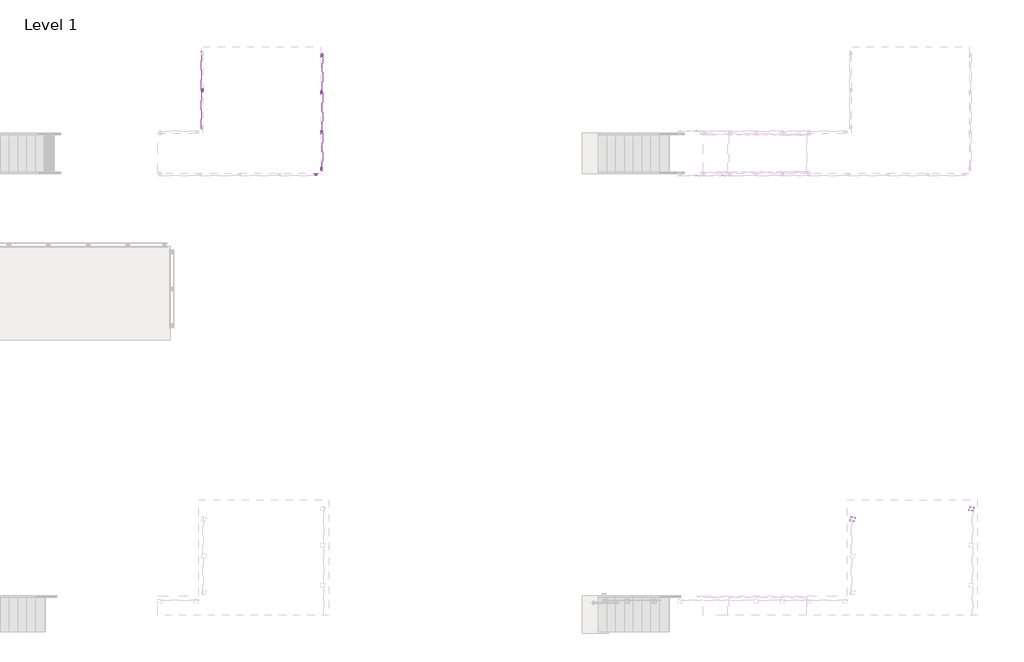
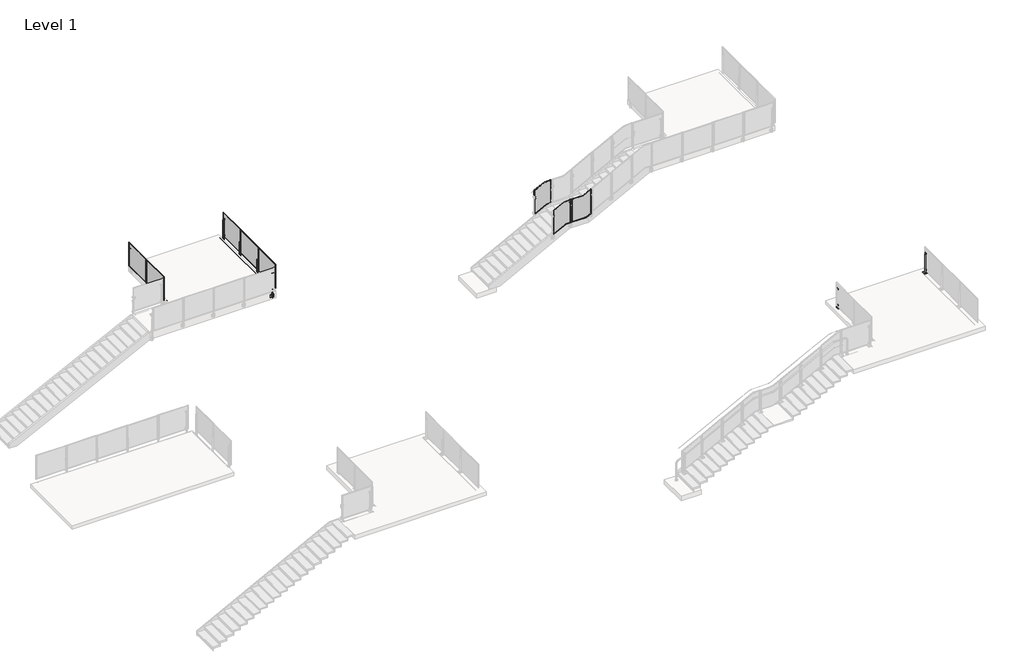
# One storey, part 16 of 28: 5 proxies, 5 railings.
"""IFC4 building model written with IfcOpenShell, lengths in millimetres."""

from ifc_helpers import new_model, si_unit, point, frame, frame_2d, origin, place, context, project, spatial, polyline, circle_curve, trimmed, segment, composite_curve, outline, extrude, transform, mapped, element, save
from components import building_element_proxy_f0dd287b, building_element_proxy_88367a16, building_element_proxy_d87515a7, building_element_proxy_bd17ef1f, standard_pp01_cf85937b, standard_pp01_83faf62d, standard_pp01_0638d6a2

model = new_model("IFC4")

# Units and contexts
model_context = context("Model", 3, world=origin())
ifc_project = project(units=[si_unit("LENGTHUNIT", "METRE", prefix="MILLI")], contexts=[model_context])

# Site, building, storey
site = spatial("IfcSite", under=ifc_project)
building = spatial("IfcBuilding", under=site)
storey = spatial("IfcBuildingStorey", under=building, Name="Level 1", Elevation=0.0)

# Proxies
placement = place(None, origin())
building_element_proxy_shape = building_element_proxy_f0dd287b(model_context)
element("IfcBuildingElementProxy", 1, Name="Baluster-End-Post-VIVA-STRUC-Top Mount : WELDED Fascia MOUNT STRUC_STRAIGHT", ObjectType="Baluster-End-Post-VIVA-STRUC-Top Mount : WELDED Fascia MOUNT STRUC_STRAIGHT", at=placement, inside=storey, context=model_context, shape_type="MappedRepresentation", body=[
    mapped(building_element_proxy_shape, transform((-27951.5100036, -3846.7140523, 3047.492), x_axis=(0.0, 1.0, 0.0), y_axis=(-1.0, 0.0, 0.0), z_axis=(0.0, 0.0, 1.0))),
])
building_element_proxy_2_shape = building_element_proxy_88367a16(model_context)
element("IfcBuildingElementProxy", 2, Name="Baluster-End-Post-VIVA-STRUC-Top Mount : ANCHORED TO CONCRETE_TOP MOUNT STRUC_STRAIGHT", ObjectType="Baluster-End-Post-VIVA-STRUC-Top Mount : ANCHORED TO CONCRETE_TOP MOUNT STRUC_STRAIGHT", at=placement, inside=storey, context=model_context, shape_type="MappedRepresentation", body=[
    mapped(building_element_proxy_2_shape, transform((-7177.6759339, -14527.8968047, 3047.492), x_axis=(0.0, 1.0, 0.0), y_axis=(-1.0, 0.0, 0.0), z_axis=(0.0, 0.0, 1.0))),
])
building_element_proxy_3_shape = building_element_proxy_d87515a7(model_context)
element("IfcBuildingElementProxy", 3, Name="Baluster-End-Post-VIVA-STRUC-Top Mount : ANCHORED TO CONCRETE_TOP MOUNT STRUC_STRAIGHT", ObjectType="Baluster-End-Post-VIVA-STRUC-Top Mount : ANCHORED TO CONCRETE_TOP MOUNT STRUC_STRAIGHT", at=placement, inside=storey, context=model_context, shape_type="MappedRepresentation", body=[
    mapped(building_element_proxy_3_shape, transform((-10784.7662678, -14857.5929387, 3047.492), x_axis=(0.0, -1.0, 0.0), y_axis=(1.0, 0.0, 0.0), z_axis=(0.0, 0.0, 1.0))),
])
building_element_proxy_4_shape = building_element_proxy_bd17ef1f(model_context)
element("IfcBuildingElementProxy", 4, Name="Baluster-End-Post-VIVA-STRUC-Top Mount : WELDED Fascia MOUNT STRUC_STRAIGHT", ObjectType="Baluster-End-Post-VIVA-STRUC-Top Mount : WELDED Fascia MOUNT STRUC_STRAIGHT", at=placement, inside=storey, context=model_context, shape_type="MappedRepresentation", body=[
    mapped(building_element_proxy_4_shape, transform((-27936.1434339, -3841.0034112, 3047.492), x_axis=(1.0, 0.0, 0.0), y_axis=(0.0, 1.0, 0.0), z_axis=(0.0, 0.0, 1.0))),
])
element("IfcBuildingElementProxy", 5, Name="Baluster-End-Post-VIVA-STRUC-Top Mount : WELDED Fascia MOUNT STRUC_STRAIGHT", ObjectType="Baluster-End-Post-VIVA-STRUC-Top Mount : WELDED Fascia MOUNT STRUC_STRAIGHT", at=placement, inside=storey, context=model_context, shape_type="MappedRepresentation", body=[
    mapped(building_element_proxy_4_shape, transform((-27951.5100036, -36.7140523, 3047.492), x_axis=(0.0, 1.0, 0.0), y_axis=(-1.0, 0.0, 0.0), z_axis=(0.0, 0.0, 1.0))),
])

# Railings
element("IfcRailing", 6, ObjectType="Metal-Panel-VIVA-STRUC-Fascia-Straight", at=placement, inside=storey, context=model_context, shape_type="SweptSolid", body=[
    extrude(outline(composite_curve([segment(trimmed(circle_curve(frame_2d((3047.746, -31563.4049728)), 0.254), [point((3047.746, -31563.1509728))], [point((3047.746, -31563.6589728))], False, "CARTESIAN"), True, "CONTINUOUS"), segment(trimmed(circle_curve(frame_2d((3047.746, -31563.4049728)), 0.254), [point((3047.746, -31563.6589728))], [point((3047.746, -31563.1509728))], False, "CARTESIAN"), True, "CONTINUOUS")], self_intersect=False)), frame((0.0, -2506.3726508, 0.0), z_axis=(0.0, 1.0, 0.0), x_axis=(0.0, 0.0, 1.0)), (0.0, 0.0, 1.0), 2540.0),
    extrude(outline(composite_curve([segment(trimmed(circle_curve(frame_2d((3047.746, -31563.4049728)), 0.254), [point((3047.746, -31563.1509728))], [point((3047.746, -31563.6589728))], False, "CARTESIAN"), True, "CONTINUOUS"), segment(trimmed(circle_curve(frame_2d((3047.746, -31563.4049728)), 0.254), [point((3047.746, -31563.6589728))], [point((3047.746, -31563.1509728))], False, "CARTESIAN"), True, "CONTINUOUS")], self_intersect=False)), frame((0.0, -2506.3726508, 0.0), z_axis=(0.0, 1.0, 0.0), x_axis=(0.0, 0.0, 1.0)), (0.0, 0.0, 1.0), 2540.0),
    extrude(outline(polyline([(-31693.0987728, -1195.5461939), (-31693.0987728, -7.1991078), (-31690.0987728, -7.1991078), (-31690.0987728, -1195.5461939), (-31693.0987728, -1195.5461939)])), frame((0.0, 0.0, 3124.1959569), z_axis=(0.0, 0.0, 1.0), x_axis=(1.0, 0.0, 0.0)), (0.0, 0.0, 1.0), 990.5826861),
    extrude(outline(polyline([(-1220.9461939, 3098.7959569), (-1220.9461939, 4140.1786431), (18.2008922, 4140.1786431), (18.2008922, 3098.7959569), (-1220.9461939, 3098.7959569)]), holes=[polyline([(-1195.5461939, 4114.7786431), (-1195.5461939, 3124.1959569), (-7.1991078, 3124.1959569), (-7.1991078, 4114.7786431), (-1195.5461939, 4114.7786431)])]), frame((-31699.6237728, 0.0, 0.0), z_axis=(1.0, 0.0, 0.0), x_axis=(0.0, 1.0, 0.0)), (0.0, 0.0, 1.0), 9.525),
    extrude(outline(polyline([(-31682.9881728, -1274.4733701), (-31690.1001728, -1274.4733701), (-31690.1001728, -1198.2719316), (-31682.9881728, -1198.2719316), (-31682.9881728, -1274.4733701)])), frame((0.0, 0.0, 3529.076), z_axis=(0.0, 0.0, 1.0), x_axis=(1.0, 0.0, 0.0)), (0.0, 0.0, 1.0), 50.8),
    extrude(outline(polyline([(-31682.9881728, -1274.4733701), (-31690.1001728, -1274.4733701), (-31690.1001728, -1198.2719316), (-31682.9881728, -1198.2719316), (-31682.9881728, -1274.4733701)])), frame((0.0, 0.0, 3071.876), z_axis=(0.0, 0.0, 1.0), x_axis=(1.0, 0.0, 0.0)), (0.0, 0.0, 1.0), 50.8),
    extrude(outline(polyline([(-31677.1461728, -1228.4372425), (-31677.1461728, -1220.4362425), (-31643.3641728, -1220.4362425), (-31643.3641728, -1172.8767209), (-31635.2361728, -1172.8767209), (-31635.2361728, -1228.4372425), (-31677.1461728, -1228.4372425)])), frame((0.0, 0.0, 2832.1), z_axis=(0.0, 0.0, 1.0), x_axis=(1.0, 0.0, 0.0)), (0.0, 0.0, 1.0), 127.0),
    extrude(outline(polyline([(-31677.1461728, -1244.3122425), (-31635.2361728, -1244.3122425), (-31635.2361728, -1299.872764), (-31643.3641728, -1299.872764), (-31643.3641728, -1252.3132425), (-31677.1461728, -1252.3132425), (-31677.1461728, -1244.3122425)])), frame((0.0, 0.0, 2832.1), z_axis=(0.0, 0.0, 1.0), x_axis=(1.0, 0.0, 0.0)), (0.0, 0.0, 1.0), 127.0),
    extrude(outline(polyline([(-31638.5381728, -1244.3122425), (-31682.9881728, -1244.3122425), (-31682.9881728, -1228.4330592), (-31638.5381728, -1228.4330592), (-31638.5381728, -1244.3122425)])), frame((0.0, 0.0, 2832.1), z_axis=(0.0, 0.0, 1.0), x_axis=(1.0, 0.0, 0.0)), (0.0, 0.0, 1.0), 787.4),
    extrude(outline(polyline([(-31693.0987728, -2465.5461939), (-31693.0987728, -1277.1991078), (-31690.0987728, -1277.1991078), (-31690.0987728, -2465.5461939), (-31693.0987728, -2465.5461939)])), frame((0.0, 0.0, 3124.1959569), z_axis=(0.0, 0.0, 1.0), x_axis=(1.0, 0.0, 0.0)), (0.0, 0.0, 1.0), 990.5826861),
    extrude(outline(polyline([(-2490.9461939, 3098.7959569), (-2490.9461939, 4140.1786431), (-1251.7991078, 4140.1786431), (-1251.7991078, 3098.7959569), (-2490.9461939, 3098.7959569)]), holes=[polyline([(-2465.5461939, 4114.7786431), (-2465.5461939, 3124.1959569), (-1277.1991078, 3124.1959569), (-1277.1991078, 4114.7786431), (-2465.5461939, 4114.7786431)])]), frame((-31699.6237728, 0.0, 0.0), z_axis=(1.0, 0.0, 0.0), x_axis=(0.0, 1.0, 0.0)), (0.0, 0.0, 1.0), 9.525),
])
element("IfcRailing", 7, ObjectType="Metal-Panel-VIVA-STRUC-Fascia-Straight", at=placement, inside=storey, context=model_context, shape_type="SweptSolid", body=[
    extrude(outline(composite_curve([segment(trimmed(circle_curve(frame_2d((3047.746, -27951.5100036)), 0.254), [point((3047.746, -27951.2560036))], [point((3047.746, -27951.7640036))], False, "CARTESIAN"), True, "CONTINUOUS"), segment(trimmed(circle_curve(frame_2d((3047.746, -27951.5100036)), 0.254), [point((3047.746, -27951.7640036))], [point((3047.746, -27951.2560036))], False, "CARTESIAN"), True, "CONTINUOUS")], self_intersect=False)), frame((0.0, -3846.7140523, 0.0), z_axis=(0.0, 1.0, 0.0), x_axis=(0.0, 0.0, 1.0)), (0.0, 0.0, 1.0), 3810.0),
    extrude(outline(composite_curve([segment(trimmed(circle_curve(frame_2d((3047.746, -27951.5100036)), 0.254), [point((3047.746, -27951.2560036))], [point((3047.746, -27951.7640036))], False, "CARTESIAN"), True, "CONTINUOUS"), segment(trimmed(circle_curve(frame_2d((3047.746, -27951.5100036)), 0.254), [point((3047.746, -27951.7640036))], [point((3047.746, -27951.2560036))], False, "CARTESIAN"), True, "CONTINUOUS")], self_intersect=False)), frame((0.0, -3846.7140523, 0.0), z_axis=(0.0, 1.0, 0.0), x_axis=(0.0, 0.0, 1.0)), (0.0, 0.0, 1.0), 3810.0),
    extrude(outline(polyline([(-27821.8162036, -1265.8875954), (-27824.8162036, -1265.8875954), (-27824.8162036, -77.5405093), (-27821.8162036, -77.5405093), (-27821.8162036, -1265.8875954)])), frame((0.0, 0.0, 3124.1959569), z_axis=(0.0, 0.0, 1.0), x_axis=(1.0, 0.0, 0.0)), (0.0, 0.0, 1.0), 990.5826861),
    extrude(outline(polyline([(-1291.2875954, 4140.1786431), (-52.1405093, 4140.1786431), (-52.1405093, 3098.7959569), (-1291.2875954, 3098.7959569), (-1291.2875954, 4140.1786431)]), holes=[polyline([(-1265.8875954, 3124.1959569), (-77.5405093, 3124.1959569), (-77.5405093, 4114.7786431), (-1265.8875954, 4114.7786431), (-1265.8875954, 3124.1959569)])]), frame((-27824.8162036, 0.0, 0.0), z_axis=(1.0, 0.0, 0.0), x_axis=(0.0, 1.0, 0.0)), (0.0, 0.0, 1.0), 9.525),
    extrude(outline(polyline([(-27831.9268036, -1344.8147716), (-27831.9268036, -1268.6133331), (-27824.8148036, -1268.6133331), (-27824.8148036, -1344.8147716), (-27831.9268036, -1344.8147716)])), frame((0.0, 0.0, 3529.076), z_axis=(0.0, 0.0, 1.0), x_axis=(1.0, 0.0, 0.0)), (0.0, 0.0, 1.0), 50.8),
    extrude(outline(polyline([(-27831.9268036, -1344.8147716), (-27831.9268036, -1268.6133331), (-27824.8148036, -1268.6133331), (-27824.8148036, -1344.8147716), (-27831.9268036, -1344.8147716)])), frame((0.0, 0.0, 3071.876), z_axis=(0.0, 0.0, 1.0), x_axis=(1.0, 0.0, 0.0)), (0.0, 0.0, 1.0), 50.8),
    extrude(outline(polyline([(-27837.7688036, -1298.778644), (-27879.6788036, -1298.778644), (-27879.6788036, -1243.2181224), (-27871.5508036, -1243.2181224), (-27871.5508036, -1290.777644), (-27837.7688036, -1290.777644), (-27837.7688036, -1298.778644)])), frame((0.0, 0.0, 2832.1), z_axis=(0.0, 0.0, 1.0), x_axis=(1.0, 0.0, 0.0)), (0.0, 0.0, 1.0), 127.0),
    extrude(outline(polyline([(-27837.7688036, -1314.653644), (-27837.7688036, -1322.654644), (-27871.5508036, -1322.654644), (-27871.5508036, -1370.2141656), (-27879.6788036, -1370.2141656), (-27879.6788036, -1314.653644), (-27837.7688036, -1314.653644)])), frame((0.0, 0.0, 2832.1), z_axis=(0.0, 0.0, 1.0), x_axis=(1.0, 0.0, 0.0)), (0.0, 0.0, 1.0), 127.0),
    extrude(outline(polyline([(-27876.3768036, -1314.653644), (-27876.3768036, -1298.7744607), (-27831.9268036, -1298.7744607), (-27831.9268036, -1314.653644), (-27876.3768036, -1314.653644)])), frame((0.0, 0.0, 2832.1), z_axis=(0.0, 0.0, 1.0), x_axis=(1.0, 0.0, 0.0)), (0.0, 0.0, 1.0), 787.4),
    extrude(outline(polyline([(-27821.8162036, -2535.8875954), (-27824.8162036, -2535.8875954), (-27824.8162036, -1347.5405093), (-27821.8162036, -1347.5405093), (-27821.8162036, -2535.8875954)])), frame((0.0, 0.0, 3124.1959569), z_axis=(0.0, 0.0, 1.0), x_axis=(1.0, 0.0, 0.0)), (0.0, 0.0, 1.0), 990.5826861),
    extrude(outline(polyline([(-2561.2875954, 4140.1786431), (-1322.1405093, 4140.1786431), (-1322.1405093, 3098.7959569), (-2561.2875954, 3098.7959569), (-2561.2875954, 4140.1786431)]), holes=[polyline([(-2535.8875954, 3124.1959569), (-1347.5405093, 3124.1959569), (-1347.5405093, 4114.7786431), (-2535.8875954, 4114.7786431), (-2535.8875954, 3124.1959569)])]), frame((-27824.8162036, 0.0, 0.0), z_axis=(1.0, 0.0, 0.0), x_axis=(0.0, 1.0, 0.0)), (0.0, 0.0, 1.0), 9.525),
    extrude(outline(polyline([(-27831.9268036, -2614.8147716), (-27831.9268036, -2538.6133331), (-27824.8148036, -2538.6133331), (-27824.8148036, -2614.8147716), (-27831.9268036, -2614.8147716)])), frame((0.0, 0.0, 3529.076), z_axis=(0.0, 0.0, 1.0), x_axis=(1.0, 0.0, 0.0)), (0.0, 0.0, 1.0), 50.8),
    extrude(outline(polyline([(-27831.9268036, -2614.8147716), (-27831.9268036, -2538.6133331), (-27824.8148036, -2538.6133331), (-27824.8148036, -2614.8147716), (-27831.9268036, -2614.8147716)])), frame((0.0, 0.0, 3071.876), z_axis=(0.0, 0.0, 1.0), x_axis=(1.0, 0.0, 0.0)), (0.0, 0.0, 1.0), 50.8),
    extrude(outline(polyline([(-27837.7688036, -2568.778644), (-27879.6788036, -2568.778644), (-27879.6788036, -2513.2181224), (-27871.5508036, -2513.2181224), (-27871.5508036, -2560.777644), (-27837.7688036, -2560.777644), (-27837.7688036, -2568.778644)])), frame((0.0, 0.0, 2832.1), z_axis=(0.0, 0.0, 1.0), x_axis=(1.0, 0.0, 0.0)), (0.0, 0.0, 1.0), 127.0),
    extrude(outline(polyline([(-27837.7688036, -2584.653644), (-27837.7688036, -2592.654644), (-27871.5508036, -2592.654644), (-27871.5508036, -2640.2141656), (-27879.6788036, -2640.2141656), (-27879.6788036, -2584.653644), (-27837.7688036, -2584.653644)])), frame((0.0, 0.0, 2832.1), z_axis=(0.0, 0.0, 1.0), x_axis=(1.0, 0.0, 0.0)), (0.0, 0.0, 1.0), 127.0),
    extrude(outline(polyline([(-27876.3768036, -2584.653644), (-27876.3768036, -2568.7744607), (-27831.9268036, -2568.7744607), (-27831.9268036, -2584.653644), (-27876.3768036, -2584.653644)])), frame((0.0, 0.0, 2832.1), z_axis=(0.0, 0.0, 1.0), x_axis=(1.0, 0.0, 0.0)), (0.0, 0.0, 1.0), 787.4),
    extrude(outline(polyline([(-27821.8162036, -3805.8875954), (-27824.8162036, -3805.8875954), (-27824.8162036, -2617.5405093), (-27821.8162036, -2617.5405093), (-27821.8162036, -3805.8875954)])), frame((0.0, 0.0, 3124.1959569), z_axis=(0.0, 0.0, 1.0), x_axis=(1.0, 0.0, 0.0)), (0.0, 0.0, 1.0), 990.5826861),
    extrude(outline(polyline([(-3831.2875954, 4140.1786431), (-2592.1405093, 4140.1786431), (-2592.1405093, 3098.7959569), (-3831.2875954, 3098.7959569), (-3831.2875954, 4140.1786431)]), holes=[polyline([(-3805.8875954, 3124.1959569), (-2617.5405093, 3124.1959569), (-2617.5405093, 4114.7786431), (-3805.8875954, 4114.7786431), (-3805.8875954, 3124.1959569)])]), frame((-27824.8162036, 0.0, 0.0), z_axis=(1.0, 0.0, 0.0), x_axis=(0.0, 1.0, 0.0)), (0.0, 0.0, 1.0), 9.525),
])
standard_pp01_shape = standard_pp01_cf85937b(model_context)
element("IfcRailing", 8, ObjectType="Baluster-Landing-Panel-VIVA-STRUC-Lower : Standard_PP01", at=placement, inside=storey, context=model_context, shape_type="MappedRepresentation", body=[
    mapped(standard_pp01_shape, transform((-16364.1715204, -3985.0601228, 1889.0552137), x_axis=(0.0, 1.0, 0.0), y_axis=(-1.0, 0.0, 0.0), z_axis=(0.0, 0.0, 1.0))),
])
standard_pp01_2_shape = standard_pp01_83faf62d(model_context)
element("IfcRailing", 9, ObjectType="Baluster-Landing-Panel-VIVA-STRUC-Upper : Standard_PP01", at=placement, inside=storey, context=model_context, shape_type="MappedRepresentation", body=[
    mapped(standard_pp01_2_shape, transform((-15804.658102, -4033.069737, 1885.0299016), x_axis=(0.0, 1.0, 0.0), y_axis=(-1.0, 0.0, 0.0), z_axis=(0.0, 0.0, 1.0))),
])
standard_pp01_3_shape = standard_pp01_0638d6a2(model_context)
element("IfcRailing", 10, ObjectType="Baluster-Landing-Panel-VIVA-STRUC-Lower : Standard_PP01", at=placement, inside=storey, context=model_context, shape_type="MappedRepresentation", body=[
    mapped(standard_pp01_3_shape, transform((-16364.1715204, -2539.1849438, 1889.0552137), x_axis=(0.0, -1.0, 0.0), y_axis=(1.0, 0.0, 0.0), z_axis=(0.0, 0.0, 1.0))),
])

save(model, "model.ifc")
